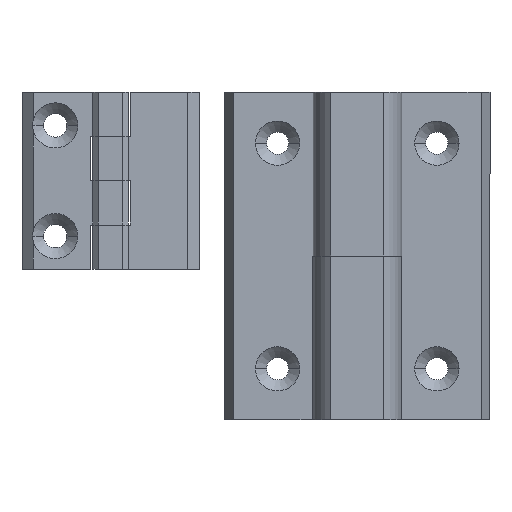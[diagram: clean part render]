
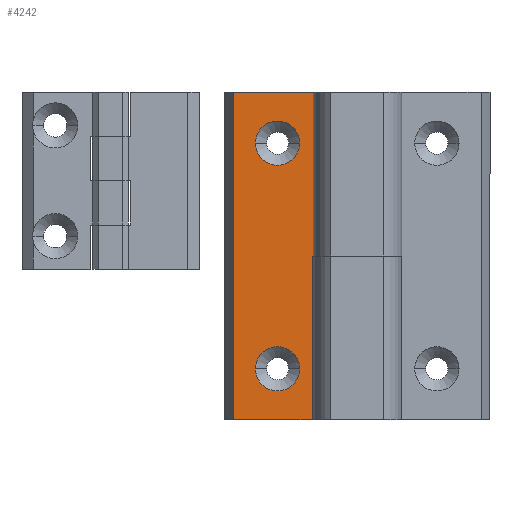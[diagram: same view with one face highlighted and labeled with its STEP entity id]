
A CAD part, front view. The second image highlights one B-rep face of the part: STEP entity #4242.
In plain terms, the highlighted planar face has unit normal (0, -1, 0).
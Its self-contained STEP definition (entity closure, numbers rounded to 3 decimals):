
#3749=CARTESIAN_POINT('',(-2.991,3.,25.5));
#3750=VERTEX_POINT('',#3749);
#3759=CARTESIAN_POINT('',(-12.991,3.,25.5));
#3760=VERTEX_POINT('',#3759);
#3761=CARTESIAN_POINT('',(-7.991,3.,25.5));
#3762=DIRECTION('',(0.0,1.0,0.0));
#3763=DIRECTION('',(1.0,0.0,0.0));
#3764=AXIS2_PLACEMENT_3D('',#3761,#3762,#3763);
#3765=CIRCLE('',#3764,5.0);
#3766=EDGE_CURVE('',#3760,#3750,#3765,.T.);
#3823=CARTESIAN_POINT('',(-2.991,3.,-25.5));
#3824=VERTEX_POINT('',#3823);
#3833=CARTESIAN_POINT('',(-12.991,3.,-25.5));
#3834=VERTEX_POINT('',#3833);
#3835=CARTESIAN_POINT('',(-7.991,3.,-25.5));
#3836=DIRECTION('',(0.0,1.0,0.0));
#3837=DIRECTION('',(1.0,0.0,0.0));
#3838=AXIS2_PLACEMENT_3D('',#3835,#3836,#3837);
#3839=CIRCLE('',#3838,5.0);
#3840=EDGE_CURVE('',#3834,#3824,#3839,.T.);
#3924=CARTESIAN_POINT('',(-7.991,3.,-25.5));
#3925=DIRECTION('',(0.0,1.0,0.0));
#3926=DIRECTION('',(1.0,0.0,0.0));
#3927=AXIS2_PLACEMENT_3D('',#3924,#3925,#3926);
#3928=CIRCLE('',#3927,5.0);
#3929=EDGE_CURVE('',#3824,#3834,#3928,.T.);
#3966=CARTESIAN_POINT('',(-7.991,3.,25.5));
#3967=DIRECTION('',(0.0,1.0,0.0));
#3968=DIRECTION('',(1.0,0.0,0.0));
#3969=AXIS2_PLACEMENT_3D('',#3966,#3967,#3968);
#3970=CIRCLE('',#3969,5.0);
#3971=EDGE_CURVE('',#3750,#3760,#3970,.T.);
#4064=CARTESIAN_POINT('',(0.762,3.,0.0));
#4065=VERTEX_POINT('',#4064);
#4073=CARTESIAN_POINT('',(0.965,3.,0.0));
#4074=VERTEX_POINT('',#4073);
#4075=CARTESIAN_POINT('',(0.965,3.,0.0));
#4076=DIRECTION('',(-1.0,0.0,0.0));
#4077=VECTOR('',#4076,0.202);
#4078=LINE('',#4075,#4077);
#4079=EDGE_CURVE('',#4074,#4065,#4078,.T.);
#4141=CARTESIAN_POINT('',(0.762,3.,37.0));
#4142=VERTEX_POINT('',#4141);
#4150=CARTESIAN_POINT('',(0.762,3.,0.0));
#4151=DIRECTION('',(0.0,0.0,1.0));
#4152=VECTOR('',#4151,37.0);
#4153=LINE('',#4150,#4152);
#4154=EDGE_CURVE('',#4065,#4142,#4153,.T.);
#4184=CARTESIAN_POINT('',(0.965,3.,-37.0));
#4185=VERTEX_POINT('',#4184);
#4186=CARTESIAN_POINT('',(0.965,3.,0.0));
#4187=DIRECTION('',(0.0,0.0,-1.0));
#4188=VECTOR('',#4187,37.0);
#4189=LINE('',#4186,#4188);
#4190=EDGE_CURVE('',#4074,#4185,#4189,.T.);
#4202=CARTESIAN_POINT('',(-17.991,3.,37.0));
#4203=DIRECTION('',(0.0,-1.0,0.0));
#4204=DIRECTION('',(0.0,0.0,-1.0));
#4205=AXIS2_PLACEMENT_3D('',#4202,#4203,#4204);
#4206=PLANE('',#4205);
#4207=ORIENTED_EDGE('',*,*,#4154,.T.);
#4208=CARTESIAN_POINT('',(-17.991,3.,37.0));
#4209=VERTEX_POINT('',#4208);
#4210=CARTESIAN_POINT('',(-17.991,3.,37.0));
#4211=DIRECTION('',(1.0,0.0,0.0));
#4212=VECTOR('',#4211,18.753);
#4213=LINE('',#4210,#4212);
#4214=EDGE_CURVE('',#4209,#4142,#4213,.T.);
#4215=ORIENTED_EDGE('',*,*,#4214,.F.);
#4216=CARTESIAN_POINT('',(-17.991,3.,-37.0));
#4217=VERTEX_POINT('',#4216);
#4218=CARTESIAN_POINT('',(-17.991,3.,37.0));
#4219=DIRECTION('',(0.0,0.0,-1.0));
#4220=VECTOR('',#4219,74.0);
#4221=LINE('',#4218,#4220);
#4222=EDGE_CURVE('',#4209,#4217,#4221,.T.);
#4223=ORIENTED_EDGE('',*,*,#4222,.T.);
#4224=CARTESIAN_POINT('',(-17.991,3.,-37.0));
#4225=DIRECTION('',(1.0,0.0,0.0));
#4226=VECTOR('',#4225,18.955);
#4227=LINE('',#4224,#4226);
#4228=EDGE_CURVE('',#4217,#4185,#4227,.T.);
#4229=ORIENTED_EDGE('',*,*,#4228,.T.);
#4230=ORIENTED_EDGE('',*,*,#4190,.F.);
#4231=ORIENTED_EDGE('',*,*,#4079,.T.);
#4232=EDGE_LOOP('',(#4207,#4215,#4223,#4229,#4230,#4231));
#4233=FACE_OUTER_BOUND('',#4232,.T.);
#4234=ORIENTED_EDGE('',*,*,#3929,.T.);
#4235=ORIENTED_EDGE('',*,*,#3840,.T.);
#4236=EDGE_LOOP('',(#4234,#4235));
#4237=FACE_BOUND('',#4236,.T.);
#4238=ORIENTED_EDGE('',*,*,#3971,.T.);
#4239=ORIENTED_EDGE('',*,*,#3766,.T.);
#4240=EDGE_LOOP('',(#4238,#4239));
#4241=FACE_BOUND('',#4240,.T.);
#4242=ADVANCED_FACE('',(#4233,#4237,#4241),#4206,.T.);
